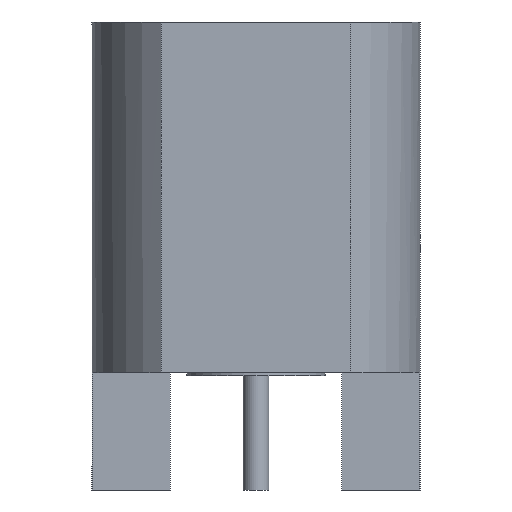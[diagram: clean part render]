
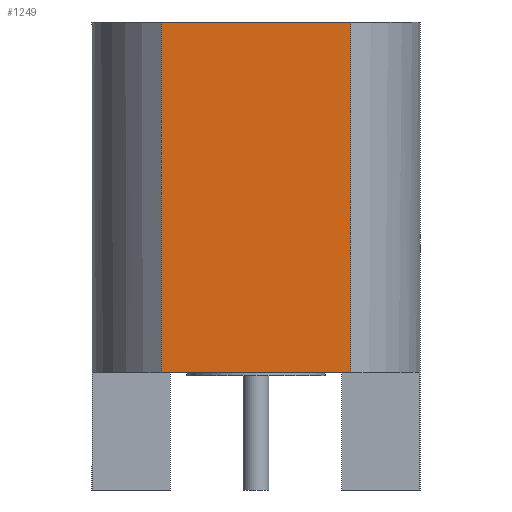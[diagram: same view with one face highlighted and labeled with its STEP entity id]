
A CAD part, front view. The second image highlights one B-rep face of the part: STEP entity #1249.
In plain terms, the highlighted planar face has unit normal (0, -1, 0).
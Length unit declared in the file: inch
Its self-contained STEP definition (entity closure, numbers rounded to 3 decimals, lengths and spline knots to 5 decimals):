
#56 = AXIS2_PLACEMENT_3D ( 'NONE', #523, #1656, #678 ) ;
#229 = ORIENTED_EDGE ( 'NONE', *, *, #235, .F. ) ;
#235 = EDGE_CURVE ( 'NONE', #295, #625, #919, .T. ) ;
#253 = DIRECTION ( 'NONE',  ( 0., 0., -1. ) ) ;
#295 = VERTEX_POINT ( 'NONE', #2129 ) ;
#436 = LINE ( 'NONE', #1889, #1342 ) ;
#454 = ORIENTED_EDGE ( 'NONE', *, *, #1851, .F. ) ;
#480 = DIRECTION ( 'NONE',  ( 1., 0., 0. ) ) ;
#492 = EDGE_CURVE ( 'NONE', #295, #2024, #436, .T. ) ;
#503 = CARTESIAN_POINT ( 'NONE',  ( -0.03312, -0.047, 0. ) ) ;
#523 = CARTESIAN_POINT ( 'NONE',  ( 0.05417, -0.047, 0. ) ) ;
#625 = VERTEX_POINT ( 'NONE', #1788 ) ;
#678 = DIRECTION ( 'NONE',  ( 0., 0., 1. ) ) ;
#739 = DIRECTION ( 'NONE',  ( 1., 0., 0. ) ) ;
#820 = VECTOR ( 'NONE', #253, 39.37008 ) ;
#866 = LINE ( 'NONE', #1890, #820 ) ;
#919 = LINE ( 'NONE', #503, #1626 ) ;
#1078 = ORIENTED_EDGE ( 'NONE', *, *, #492, .T. ) ;
#1128 = CARTESIAN_POINT ( 'NONE',  ( 0.03312, -0.047, 0. ) ) ;
#1244 = LINE ( 'NONE', #1454, #2064 ) ;
#1249 = ADVANCED_FACE ( 'NONE', ( #1757 ), #1819, .F. ) ;
#1342 = VECTOR ( 'NONE', #739, 39.37008 ) ;
#1454 = CARTESIAN_POINT ( 'NONE',  ( 0.05417, -0.047, 0. ) ) ;
#1519 = EDGE_CURVE ( 'NONE', #1964, #2024, #866, .T. ) ;
#1626 = VECTOR ( 'NONE', #1801, 39.37008 ) ;
#1656 = DIRECTION ( 'NONE',  ( 0., 1., 0. ) ) ;
#1744 = ORIENTED_EDGE ( 'NONE', *, *, #1519, .F. ) ;
#1757 = FACE_OUTER_BOUND ( 'NONE', #1963, .T. ) ;
#1788 = CARTESIAN_POINT ( 'NONE',  ( -0.03312, -0.047, 0. ) ) ;
#1801 = DIRECTION ( 'NONE',  ( 0., 0., 1. ) ) ;
#1819 = PLANE ( 'NONE',  #56 ) ;
#1851 = EDGE_CURVE ( 'NONE', #625, #1964, #1244, .T. ) ;
#1889 = CARTESIAN_POINT ( 'NONE',  ( 0., -0.047, -0.123 ) ) ;
#1890 = CARTESIAN_POINT ( 'NONE',  ( 0.03312, -0.047, 0. ) ) ;
#1963 = EDGE_LOOP ( 'NONE', ( #1078, #1744, #454, #229 ) ) ;
#1964 = VERTEX_POINT ( 'NONE', #1128 ) ;
#2024 = VERTEX_POINT ( 'NONE', #2123 ) ;
#2064 = VECTOR ( 'NONE', #480, 39.37008 ) ;
#2123 = CARTESIAN_POINT ( 'NONE',  ( 0.03312, -0.047, -0.123 ) ) ;
#2129 = CARTESIAN_POINT ( 'NONE',  ( -0.03312, -0.047, -0.123 ) ) ;
